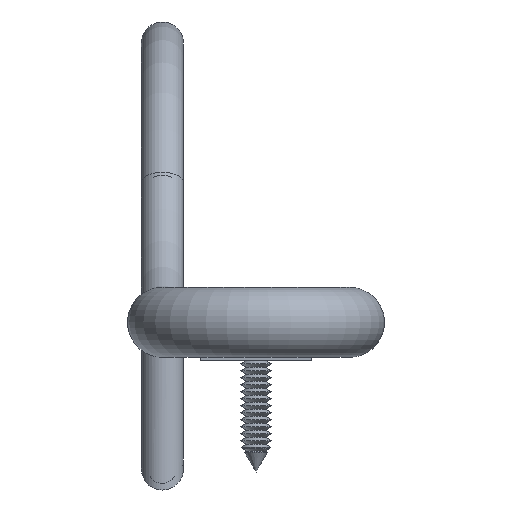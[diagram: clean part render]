
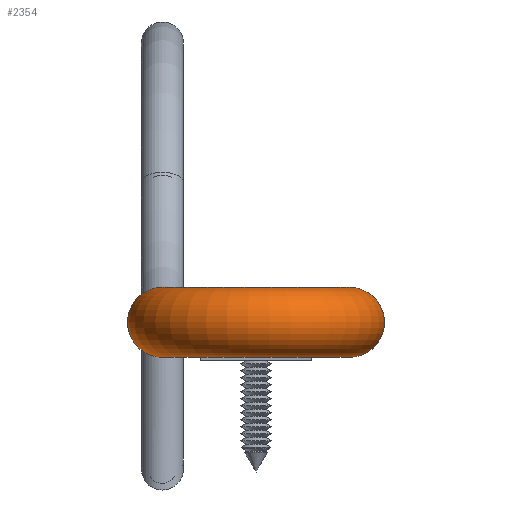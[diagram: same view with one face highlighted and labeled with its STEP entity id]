
A CAD part, front view. The second image highlights one B-rep face of the part: STEP entity #2354.
In plain terms, the highlighted toroidal (fillet/blend) face has major radius 10.636 mm and minor radius 3.969 mm.
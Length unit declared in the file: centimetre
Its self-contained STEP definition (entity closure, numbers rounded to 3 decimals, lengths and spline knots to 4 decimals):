
#687=TOROIDAL_SURFACE('',#2513,1.0636,0.3969);
#695=VERTEX_POINT('',#3534);
#696=VERTEX_POINT('',#3537);
#893=CIRCLE('',#2512,0.3969);
#894=CIRCLE('',#2514,0.3969);
#1022=EDGE_CURVE('',#695,#695,#893,.T.);
#1023=EDGE_CURVE('',#696,#696,#894,.T.);
#1344=ORIENTED_EDGE('',*,*,#1022,.T.);
#1345=ORIENTED_EDGE('',*,*,#1023,.F.);
#1986=EDGE_LOOP('',(#1344));
#1987=EDGE_LOOP('',(#1345));
#2170=FACE_BOUND('',#1986,.T.);
#2171=FACE_BOUND('',#1987,.T.);
#2354=ADVANCED_FACE('',(#2170,#2171),#687,.T.);
#2512=AXIS2_PLACEMENT_3D('',#3533,#2815,#2816);
#2513=AXIS2_PLACEMENT_3D('',#3535,#2817,$);
#2514=AXIS2_PLACEMENT_3D('',#3536,#2818,#2819);
#2815=DIRECTION('',(0.,-1.,0.));
#2816=DIRECTION('',(-0.397,0.,0.));
#2817=DIRECTION('',(0.,0.,1.));
#2818=DIRECTION('',(0.,1.,0.));
#2819=DIRECTION('',(0.397,0.,0.));
#3533=CARTESIAN_POINT('',(2.1273,0.,0.));
#3534=CARTESIAN_POINT('',(1.7304,0.,0.));
#3535=CARTESIAN_POINT('',(1.0636,0.,0.));
#3536=CARTESIAN_POINT('',(0.,0.,0.));
#3537=CARTESIAN_POINT('',(0.,0.,
-0.3969));
